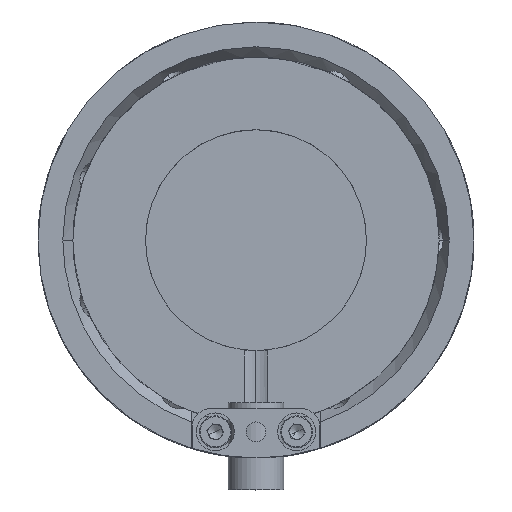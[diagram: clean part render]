
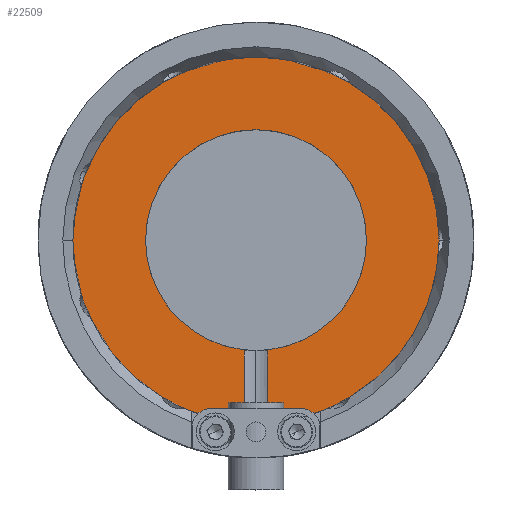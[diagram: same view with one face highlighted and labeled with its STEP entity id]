
A CAD part, top view. The second image highlights one B-rep face of the part: STEP entity #22509.
In plain terms, the highlighted planar face has unit normal (0, 0, 1).
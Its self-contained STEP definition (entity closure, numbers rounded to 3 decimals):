
#280 = CARTESIAN_POINT ( 'NONE',  ( 19., 0., 24.8 ) ) ;
#1167 = AXIS2_PLACEMENT_3D ( 'NONE', #56461, #5539, #28258 ) ;
#2272 = AXIS2_PLACEMENT_3D ( 'NONE', #44421, #60760, #15080 ) ;
#3074 = CIRCLE ( 'NONE', #37557, 31.5 ) ;
#3486 = ORIENTED_EDGE ( 'NONE', *, *, #3557, .F. ) ;
#3557 = EDGE_CURVE ( 'NONE', #56394, #27105, #68799, .T. ) ;
#4908 = VERTEX_POINT ( 'NONE', #64259 ) ;
#5125 = CARTESIAN_POINT ( 'NONE',  ( 0., 0., 24.8 ) ) ;
#5539 = DIRECTION ( 'NONE',  ( 0., 0., 1. ) ) ;
#5831 = VERTEX_POINT ( 'NONE', #61963 ) ;
#8462 = CARTESIAN_POINT ( 'NONE',  ( -2.018, -18.893, 24.8 ) ) ;
#9212 = DIRECTION ( 'NONE',  ( 0., -1., 0. ) ) ;
#9523 = ORIENTED_EDGE ( 'NONE', *, *, #13081, .T. ) ;
#9965 = CIRCLE ( 'NONE', #13518, 19. ) ;
#10518 = CARTESIAN_POINT ( 'NONE',  ( -2.018, -37.5, 24.8 ) ) ;
#10775 = CIRCLE ( 'NONE', #26228, 31.5 ) ;
#12149 = VERTEX_POINT ( 'NONE', #13249 ) ;
#12746 = EDGE_CURVE ( 'NONE', #33024, #4908, #38687, .T. ) ;
#13081 = EDGE_CURVE ( 'NONE', #4908, #64913, #10775, .T. ) ;
#13249 = CARTESIAN_POINT ( 'NONE',  ( -31.5, 0., 24.8 ) ) ;
#13518 = AXIS2_PLACEMENT_3D ( 'NONE', #5125, #46038, #17036 ) ;
#15080 = DIRECTION ( 'NONE',  ( 1., 0., 0. ) ) ;
#15805 = ORIENTED_EDGE ( 'NONE', *, *, #29646, .T. ) ;
#16104 = DIRECTION ( 'NONE',  ( 1., 0., 0. ) ) ;
#16471 = CARTESIAN_POINT ( 'NONE',  ( 0., 0., 24.8 ) ) ;
#16729 = DIRECTION ( 'NONE',  ( 0., -1., 0. ) ) ;
#17036 = DIRECTION ( 'NONE',  ( 1., 0., 0. ) ) ;
#18277 = EDGE_CURVE ( 'NONE', #64913, #12149, #64391, .T. ) ;
#19255 = FACE_OUTER_BOUND ( 'NONE', #65264, .T. ) ;
#20686 = CARTESIAN_POINT ( 'NONE',  ( 31.5, 0., 24.8 ) ) ;
#21805 = EDGE_CURVE ( 'NONE', #33024, #56394, #9965, .T. ) ;
#22509 = ADVANCED_FACE ( 'NONE', ( #19255 ), #46762, .F. ) ;
#24130 = CARTESIAN_POINT ( 'NONE',  ( 0., 0., 24.8 ) ) ;
#24857 = CIRCLE ( 'NONE', #2272, 19. ) ;
#24876 = DIRECTION ( 'NONE',  ( 0., 0., 1. ) ) ;
#26228 = AXIS2_PLACEMENT_3D ( 'NONE', #16471, #38416, #16104 ) ;
#26695 = DIRECTION ( 'NONE',  ( 0., 0., -1. ) ) ;
#27105 = VERTEX_POINT ( 'NONE', #51011 ) ;
#28258 = DIRECTION ( 'NONE',  ( 1., 0., 0. ) ) ;
#28787 = CARTESIAN_POINT ( 'NONE',  ( 0., 0., 24.8 ) ) ;
#29646 = EDGE_CURVE ( 'NONE', #12149, #5831, #3074, .T. ) ;
#32391 = AXIS2_PLACEMENT_3D ( 'NONE', #28787, #56990, #69219 ) ;
#32471 = DIRECTION ( 'NONE',  ( 0., 1., 0. ) ) ;
#33024 = VERTEX_POINT ( 'NONE', #69175 ) ;
#37557 = AXIS2_PLACEMENT_3D ( 'NONE', #24130, #24876, #58666 ) ;
#38416 = DIRECTION ( 'NONE',  ( 0., 0., 1. ) ) ;
#38687 = LINE ( 'NONE', #49102, #41664 ) ;
#41438 = ORIENTED_EDGE ( 'NONE', *, *, #71531, .F. ) ;
#41664 = VECTOR ( 'NONE', #16729, 1000. ) ;
#42073 = AXIS2_PLACEMENT_3D ( 'NONE', #44142, #26695, #9212 ) ;
#43976 = LINE ( 'NONE', #10518, #51663 ) ;
#44142 = CARTESIAN_POINT ( 'NONE',  ( 0., 19., 24.8 ) ) ;
#44421 = CARTESIAN_POINT ( 'NONE',  ( 0., 0., 24.8 ) ) ;
#45724 = VERTEX_POINT ( 'NONE', #8462 ) ;
#46038 = DIRECTION ( 'NONE',  ( 0., 0., 1. ) ) ;
#46762 = PLANE ( 'NONE',  #42073 ) ;
#47662 = ORIENTED_EDGE ( 'NONE', *, *, #18277, .T. ) ;
#48916 = ORIENTED_EDGE ( 'NONE', *, *, #21805, .F. ) ;
#49102 = CARTESIAN_POINT ( 'NONE',  ( 2.018, -37.5, 24.8 ) ) ;
#50211 = EDGE_CURVE ( 'NONE', #5831, #45724, #43976, .T. ) ;
#51011 = CARTESIAN_POINT ( 'NONE',  ( -19., 0., 24.8 ) ) ;
#51663 = VECTOR ( 'NONE', #32471, 1000. ) ;
#56394 = VERTEX_POINT ( 'NONE', #280 ) ;
#56461 = CARTESIAN_POINT ( 'NONE',  ( 0., 0., 24.8 ) ) ;
#56990 = DIRECTION ( 'NONE',  ( 0., 0., 1. ) ) ;
#58666 = DIRECTION ( 'NONE',  ( 1., 0., 0. ) ) ;
#60760 = DIRECTION ( 'NONE',  ( 0., 0., 1. ) ) ;
#61963 = CARTESIAN_POINT ( 'NONE',  ( -2.018, -31.435, 24.8 ) ) ;
#64259 = CARTESIAN_POINT ( 'NONE',  ( 2.018, -31.435, 24.8 ) ) ;
#64391 = CIRCLE ( 'NONE', #32391, 31.5 ) ;
#64913 = VERTEX_POINT ( 'NONE', #20686 ) ;
#65264 = EDGE_LOOP ( 'NONE', ( #48916, #70696, #9523, #47662, #15805, #68289, #41438, #3486 ) ) ;
#68289 = ORIENTED_EDGE ( 'NONE', *, *, #50211, .T. ) ;
#68799 = CIRCLE ( 'NONE', #1167, 19. ) ;
#69175 = CARTESIAN_POINT ( 'NONE',  ( 2.018, -18.893, 24.8 ) ) ;
#69219 = DIRECTION ( 'NONE',  ( 1., 0., 0. ) ) ;
#70696 = ORIENTED_EDGE ( 'NONE', *, *, #12746, .T. ) ;
#71531 = EDGE_CURVE ( 'NONE', #27105, #45724, #24857, .T. ) ;
